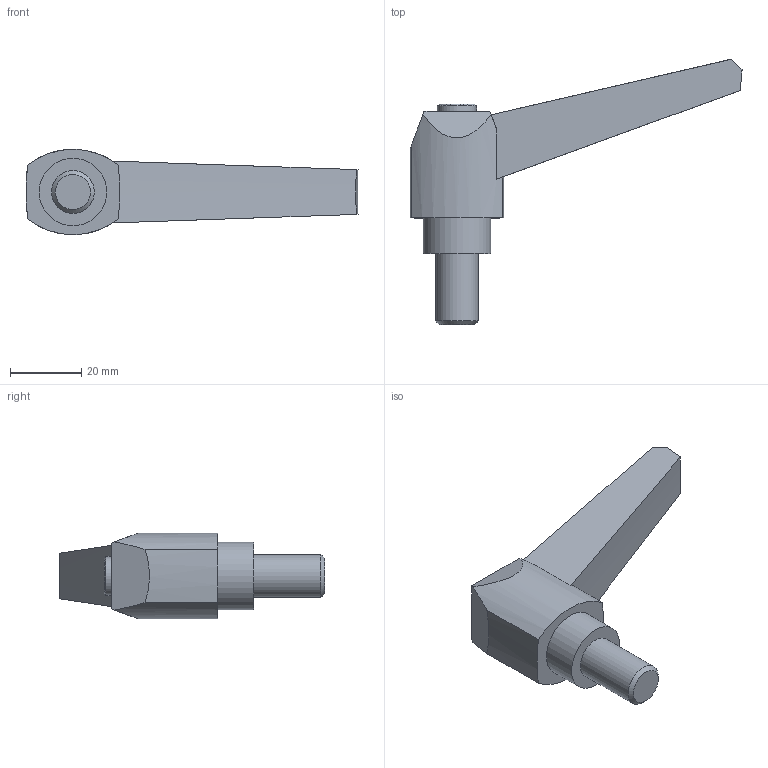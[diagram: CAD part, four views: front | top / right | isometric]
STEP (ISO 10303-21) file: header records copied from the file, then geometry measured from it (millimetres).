
FILE_DESCRIPTION( ( 'STEP AP203' ), '1' );
FILE_NAME( 'C:/Temp/Ganter_Step_05_03_2020/data/2_1/gn_500/gn_500_ms/Adjustable hand lever GN 500-80-M12-20-SW.stp', '2020-03-05T11:26:37', ( 'License CC BY-ND 4.0' ), ( 'CADENAS' ), ' ', 'PARTsolutions', ' ' );
FILE_SCHEMA( ( 'CONFIG_CONTROL_DESIGN' ) );
Length unit declared in the file: millimetre
Products named in the file (1): _Adjustable hand lever GN 500-80-M12-20-SW
Bounding box: 93.3 x 74.58 x 24 mm (x, y, z)
Volume: 34994.7 mm3; surface area: 8628.7 mm2
Topology: 1 solids, 1 shells, 24 faces, 56 edges, 37 vertices
Faces by surface type: plane 11, cylinder 7, cone 6
Full cylindrical faces by diameter (mm): 11 x1, 12 x1, 19 x1
Entity records: 709 total; most frequent: CARTESIAN_POINT 124, DIRECTION 118, ORIENTED_EDGE 100, EDGE_CURVE 50, AXIS2_PLACEMENT_3D 47, VERTEX_POINT 36, EDGE_LOOP 32, FACE_OUTER_BOUND 27
